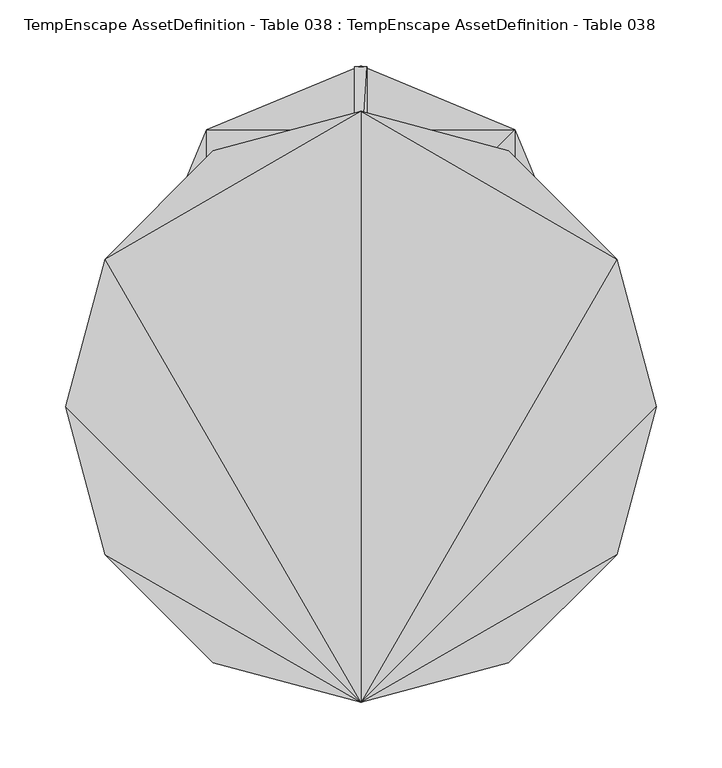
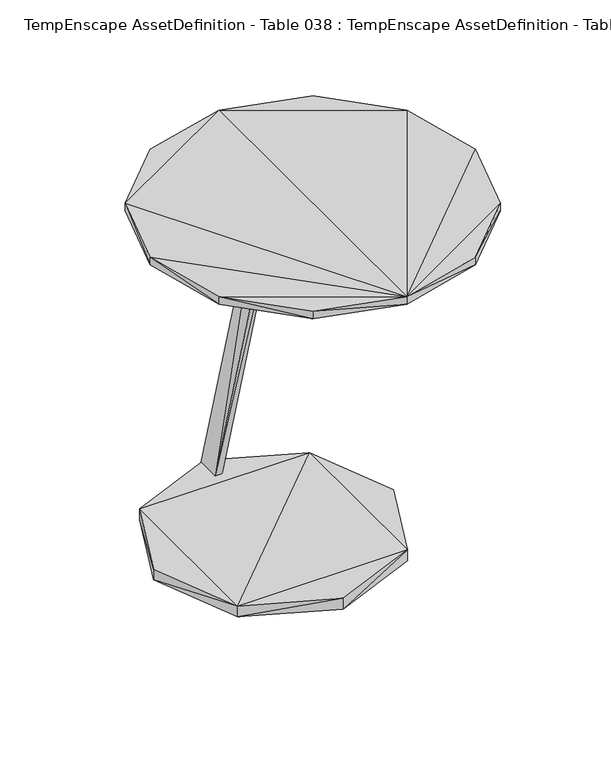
"""IFC4 building model written with IfcOpenShell, lengths in millimetres: geographic element geometry, TempEnscape AssetDefinition - Table 038 : TempEnscape AssetDefinition - Table 038."""

from ifc_helpers import new_model, si_unit, origin, place, context, project, spatial, faceted_brep, source, transform, mapped, element, save


def tempenscape_assetdefinition_table_038_tempenscape_255356b4(model_context):
    return source(origin(), model_context, "Body", "Brep", [
        faceted_brep([(4.8799999, 77.6479989, 539.5560265), (4.8799999, 226.4080048, 15.2430004), (4.8799999, 110.7859984, 539.5560265), (-4.8799999, 259.5460117, 15.2430004), (-4.8799999, 226.4080048, 15.2430004), (-4.8799999, 110.7859984, 539.5560265), (4.8799999, 259.5460117, 15.2430004), (-4.8799999, 77.6479989, 539.5560265)], [[[0, 1, 2]], [[3, 4, 5]], [[2, 6, 5]], [[7, 4, 0]], [[4, 3, 1]], [[2, 5, 0]], [[2, 1, 6]], [[5, 4, 7]], [[5, 6, 3]], [[0, 4, 1]], [[1, 3, 6]], [[0, 5, 7]]]),
        faceted_brep([(0.0, -72.4340007, 0.01), (0.0, -72.4340007, 15.7219991), (-117.7200004, -23.6729998, 0.01), (-117.7200004, -23.6729998, 15.7219991), (117.7200004, -23.6729998, 15.7219991), (117.7200004, -23.6729998, 0.01), (117.7200004, 211.7660046, 15.7219991), (166.4810032, 94.0470025, 15.7219991), (117.7200004, 211.7660046, 0.01), (166.4810032, 94.0470025, 0.01), (0.0, 260.5270147, 15.7219991), (-117.7200004, 211.7660046, 15.7219991), (0.0, 260.5270147, 0.01), (-117.7200004, 211.7660046, 0.01), (-166.4810032, 94.0459967, 15.7219991), (-166.4810032, 94.0459967, 0.01)], [[[0, 1, 2]], [[2, 1, 3]], [[0, 4, 1]], [[4, 3, 1]], [[5, 4, 0]], [[2, 5, 0]], [[6, 3, 4]], [[5, 7, 4]], [[6, 4, 7]], [[2, 8, 5]], [[9, 7, 5]], [[5, 8, 9]], [[9, 6, 7]], [[8, 6, 9]], [[8, 10, 6]], [[11, 6, 10]], [[3, 6, 11]], [[12, 10, 8]], [[8, 13, 12]], [[8, 2, 13]], [[12, 11, 10]], [[13, 11, 12]], [[13, 14, 11]], [[3, 11, 14]], [[15, 14, 13]], [[13, 2, 15]], [[2, 3, 15]], [[15, 3, 14]]]),
        faceted_brep([(0.0, -225.6010026, 550.327003), (0.0, 225.6000042, 550.327003), (-195.3759938, 112.8000021, 550.327003), (0.0, 225.6000042, 539.2839909), (-112.8000021, 195.3759938, 539.2839909), (195.3759938, 112.8000021, 550.327003), (112.8000021, 195.3759938, 550.327003), (-112.8000021, 195.3759938, 550.327003), (-195.3759938, 112.8000021, 539.2839909), (-195.3759938, -112.8000021, 539.2839909), (-225.6010026, 0.0, 539.2839909), (0.0, -225.6010026, 539.2839909), (-225.6010026, 0.0, 550.327003), (-112.8000021, -195.3759938, 539.2839909), (-195.3759938, -112.8000021, 550.327003), (-112.8000021, -195.3759938, 550.327003), (112.8000021, -195.3759938, 539.2839909), (195.3759938, -112.8000021, 550.327003), (112.8000021, -195.3759938, 550.327003), (225.6010026, 0.0, 550.327003), (195.3759938, -112.8000021, 539.2839909), (225.6010026, 0.0, 539.2839909), (195.3759938, 112.8000021, 539.2839909), (112.8000021, 195.3759938, 539.2839909)], [[[0, 1, 2]], [[3, 4, 1]], [[1, 5, 6]], [[2, 1, 7]], [[0, 5, 1]], [[1, 4, 7]], [[6, 3, 1]], [[4, 8, 7]], [[9, 8, 4]], [[9, 4, 3]], [[7, 8, 2]], [[8, 10, 2]], [[8, 9, 10]], [[3, 11, 9]], [[10, 9, 12]], [[9, 13, 14]], [[9, 11, 13]], [[12, 9, 14]], [[2, 10, 12]], [[0, 2, 12]], [[0, 12, 14]], [[0, 14, 15]], [[14, 13, 15]], [[13, 11, 15]], [[15, 11, 0]], [[11, 16, 0]], [[17, 0, 18]], [[0, 17, 19]], [[0, 19, 5]], [[0, 16, 18]], [[16, 20, 18]], [[11, 20, 16]], [[18, 20, 17]], [[20, 21, 17]], [[17, 21, 19]], [[21, 22, 19]], [[19, 22, 5]], [[22, 23, 5]], [[5, 23, 6]], [[22, 3, 23]], [[20, 22, 21]], [[20, 3, 22]], [[3, 20, 11]], [[23, 3, 6]]]),
    ])


if __name__ == "__main__":
    model = new_model("IFC4")
    model_context = context("Model", 3, world=origin())
    ifc_project = project(units=[si_unit("LENGTHUNIT", "METRE", prefix="MILLI")], contexts=[model_context])
    site = spatial("IfcSite", under=ifc_project)
    building = spatial("IfcBuilding", under=site)
    placement = place(None, origin())
    tempenscape_assetdefinition_table_038_tempenscape_shape = tempenscape_assetdefinition_table_038_tempenscape_255356b4(model_context)
    element("IfcGeographicElement", 1, ObjectType="TempEnscape AssetDefinition - Table 038 : TempEnscape AssetDefinition - Table 038", at=placement, inside=building, context=model_context, shape_type="MappedRepresentation", body=[
        mapped(tempenscape_assetdefinition_table_038_tempenscape_shape, transform((0.0, 0.0, 0.0), x_axis=(1.0, 0.0, 0.0), y_axis=(0.0, 1.0, 0.0), z_axis=(0.0, 0.0, 1.0))),
    ])
    save(model, "model.ifc")
